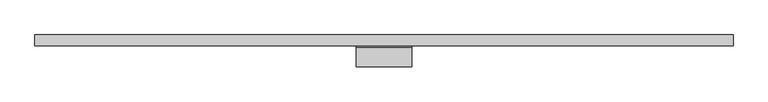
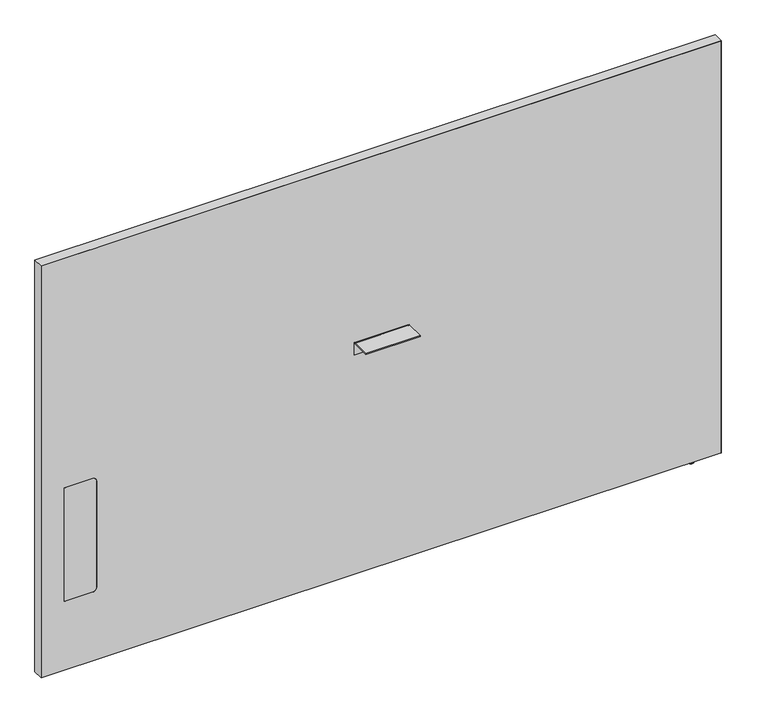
"""IFC4 building model written with IfcOpenShell, lengths in millimetres: furniture geometry, Steelcase - Answer Solution - Boundary Screen - Straight - Single Sided : 48H x 75W."""

from ifc_helpers import new_model, si_unit, point, frame, frame_2d, origin, place, context, project, spatial, polyline, circle_curve, ellipse_curve, trimmed, segment, composite_curve, outline, extrude, source, transform, mapped, element, save
from ifc_brep_helpers import plane_surface, cylinder_surface, revolved_surface, advanced_brep


def furniture_cecc6463(model_context):
    return source(origin(), model_context, "Body", "SolidModel", [
        extrude(outline(composite_curve([segment(polyline([(-86.8398151, 696.4680019), (-86.8398151, 698.5), (-34.9450855, 698.5)]), True, "CONTINUOUS"), segment(trimmed(circle_curve(frame_2d((-34.9450855, 693.2447477)), 5.2552523), [point((-34.9450855, 698.5))], [point((-29.6898332, 693.2447477))], False, "CARTESIAN"), True, "CONTINUOUS"), segment(polyline([(-29.6898332, 693.2447477), (-29.6898332, 660.4), (-31.7218162, 660.4), (-31.7218162, 693.0058743)]), True, "CONTINUOUS"), segment(trimmed(circle_curve(frame_2d((-35.1839438, 693.0058743)), 3.4621276), [point((-31.7218162, 693.0058743))], [point((-35.1839438, 696.4680019))], True, "CARTESIAN"), True, "CONTINUOUS"), segment(polyline([(-35.1839438, 696.4680019), (-86.8398151, 696.4680019)]), True, "CONTINUOUS")], self_intersect=False)), frame((229.8191407, 0.0, 0.0), z_axis=(1.0, 0.0, 0.0), x_axis=(0.0, 1.0, 0.0)), (0.0, 0.0, 1.0), 152.4000969),
        advanced_brep(
        [(1181.3286488, -23.7588726, 9.9059849), (1181.3286488, -5.9309607, 9.9059849), (1181.3286488, -14.8449166, 9.9059849), (1181.3286488, -23.7588726, 2.9673238), (1181.3286488, -5.9309607, 2.9673238), (1181.3286488, -22.7915354, 2.9673238), (1181.3286488, -6.8982978, 2.9673238), (1181.3286488, -22.7915354, 1.6569081), (1181.3286488, -6.8982978, 1.6569081), (1181.3286488, -21.1346274, 0.0), (1181.3286488, -8.5552059, 0.0), (1181.3286488, -14.8449166, 0.0)],
        [
            (0, 1, circle_curve(frame((1181.3286488, -14.8449166, 9.9059849), z_axis=(0.0, 0.0, 1.0), x_axis=(0.0, 1.0, 0.0)), 8.913956)),
            (1, 2),
            (2, 0),
            (1, 0, circle_curve(frame((1181.3286488, -14.8449166, 9.9059849), z_axis=(0.0, 0.0, 1.0), x_axis=(0.0, 1.0, 0.0)), 8.913956)),
            (3, 4, circle_curve(frame((1181.3286488, -14.8449166, 2.9673238), z_axis=(0.0, 0.0, 1.0), x_axis=(0.0, 1.0, 0.0)), 8.913956)),
            (4, 1),
            (0, 3),
            (4, 3, circle_curve(frame((1181.3286488, -14.8449166, 2.9673238), z_axis=(0.0, 0.0, 1.0), x_axis=(0.0, 1.0, 0.0)), 8.913956)),
            (5, 6, circle_curve(frame((1181.3286488, -14.8449166, 2.9673238), z_axis=(0.0, 0.0, 1.0), x_axis=(0.0, 1.0, 0.0)), 7.9466188)),
            (6, 4),
            (3, 5),
            (6, 5, circle_curve(frame((1181.3286488, -14.8449166, 2.9673238), z_axis=(0.0, 0.0, 1.0), x_axis=(0.0, 1.0, 0.0)), 7.9466188)),
            (7, 8, circle_curve(frame((1181.3286488, -14.8449166, 1.6569081), z_axis=(0.0, 0.0, 1.0), x_axis=(0.0, 1.0, 0.0)), 7.9466188)),
            (8, 6),
            (5, 7),
            (8, 7, circle_curve(frame((1181.3286488, -14.8449166, 1.6569081), z_axis=(0.0, 0.0, 1.0), x_axis=(0.0, 1.0, 0.0)), 7.9466188)),
            (9, 10, circle_curve(frame((1181.3286488, -14.8449166, 0.0), z_axis=(0.0, 0.0, 1.0), x_axis=(0.0, 1.0, 0.0)), 6.2897107)),
            (10, 8, circle_curve(frame((1181.3286488, -8.5552059, 1.6569081), z_axis=(1.0, 0.0, 0.0), x_axis=(0.0, 1.0, 0.0)), 1.6569081)),
            (7, 9, circle_curve(frame((1181.3286488, -21.1346274, 1.6569081), z_axis=(1.0, 0.0, 0.0), x_axis=(0.0, -1.0, 0.0)), 1.6569081)),
            (10, 9, circle_curve(frame((1181.3286488, -14.8449166, 0.0), z_axis=(0.0, 0.0, 1.0), x_axis=(0.0, 1.0, 0.0)), 6.2897107)),
            (11, 10),
            (9, 11),
        ],
        [
            plane_surface(frame((1181.3286488, -14.8449166, 9.9059849), z_axis=(0.0, 0.0, 1.0), x_axis=(0.0, 1.0, 0.0))),
            cylinder_surface(frame((1181.3286488, -14.8449166, 9.9059849), z_axis=(0.0, 0.0, -1.0), x_axis=(0.0, 1.0, 0.0)), 8.913956),
            plane_surface(frame((1181.3286488, -14.8449166, 2.9673238), z_axis=(0.0, 0.0, -1.0), x_axis=(0.0, 1.0, 0.0))),
            cylinder_surface(frame((1181.3286488, -14.8449166, 9.9059849), z_axis=(0.0, 0.0, -1.0), x_axis=(0.0, 1.0, 0.0)), 7.9466188),
            revolved_surface(trimmed(ellipse_curve(frame((1181.3286488, -8.5552059, 1.6569081), z_axis=(-1.0, 0.0, 0.0), x_axis=(0.0, 1.0, 0.0)), 1.6569081, 1.6569081), [point((1181.3286488, -6.8982978, 1.6569081))], [point((1181.3286488, -8.5552059, 0.0))], True, "CARTESIAN"), (1181.3286488, -14.8449166, 9.9059849), (0.0, 0.0, -1.0)),
            plane_surface(frame((1181.3286488, -14.8449166, 0.0), z_axis=(0.0, 0.0, -1.0), x_axis=(0.0, 1.0, 0.0))),
        ],
        [
            (0, [[1, 2, 3]]),
            (0, [[4, -3, -2]]),
            (1, [[5, 6, -1, 7]]),
            (1, [[8, -7, -4, -6]]),
            (2, [[9, 10, -5, 11]]),
            (2, [[12, -11, -8, -10]]),
            (3, [[13, 14, -9, 15]]),
            (3, [[16, -15, -12, -14]]),
            (4, [[17, 18, -13, 19]]),
            (4, [[20, -19, -16, -18]]),
            (5, [[21, -17, 22]]),
            (5, [[-22, -20, -21]]),
        ],
    ),
        advanced_brep(
        [(1257.4780168, 0.0, 1229.142118), (1257.4780168, 0.0, 9.9059849), (-645.4902221, 0.0, 9.9059849), (-645.4902221, 0.0, 1229.142118), (1257.4780168, -29.6898332, 1229.142118), (-645.4902221, -29.6898332, 1229.142118), (-645.4902221, -29.6898332, 9.9059849), (1257.4780168, -29.6898332, 9.9059849), (-501.1463873, -29.6898332, 549.6162029), (-490.9863873, -29.6898332, 539.4562029), (-490.9863873, -29.6898332, 223.9362137), (-501.1463873, -29.6898332, 213.7762137), (-580.800285, -29.6898332, 213.7762137), (-580.800285, -29.6898332, 549.6162029), (-580.800285, -29.0550397, 549.6162029), (-501.1463873, -29.0550397, 549.6162029), (-580.800285, -29.0550397, 213.7762137), (-501.1463873, -29.0550397, 213.7762137), (-490.9863873, -29.0550397, 223.9362137), (-490.9863873, -29.0550397, 539.4562029)],
        [
            (0, 1),
            (1, 2),
            (2, 3),
            (3, 0),
            (4, 5),
            (5, 6),
            (6, 7),
            (7, 4),
            (8, 9, circle_curve(frame((-501.1463873, -29.6898332, 539.4562029), z_axis=(0.0, 1.0, 0.0), x_axis=(0.0, 0.0, 1.0)), 10.16)),
            (9, 10),
            (10, 11, circle_curve(frame((-501.1463873, -29.6898332, 223.9362137), z_axis=(0.0, 1.0, 0.0), x_axis=(0.0, 0.0, 1.0)), 10.16)),
            (11, 12),
            (12, 13),
            (13, 8),
            (0, 4),
            (7, 1),
            (6, 2),
            (5, 3),
            (13, 14),
            (14, 15),
            (15, 8),
            (12, 16),
            (16, 14),
            (11, 17),
            (17, 16),
            (10, 18),
            (18, 17, circle_curve(frame((-501.1463873, -29.0550397, 223.9362137), z_axis=(0.0, 1.0, 0.0), x_axis=(0.0, 0.0, 1.0)), 10.16)),
            (9, 19),
            (19, 18),
            (15, 19, circle_curve(frame((-501.1463873, -29.0550397, 539.4562029), z_axis=(0.0, 1.0, 0.0), x_axis=(0.0, 0.0, 1.0)), 10.16)),
        ],
        [
            plane_surface(frame((1257.4780168, 0.0, 1229.142118), z_axis=(0.0, 1.0, 0.0), x_axis=(0.0, 0.0, -1.0))),
            plane_surface(frame((1257.4780168, -29.6898332, 1229.142118), z_axis=(0.0, -1.0, 0.0), x_axis=(0.0, 0.0, 1.0))),
            plane_surface(frame((1257.4780168, 0.0, 1229.142118), z_axis=(1.0, 0.0, 0.0), x_axis=(0.0, -1.0, 0.0))),
            plane_surface(frame((1257.4780168, 0.0, 9.9059849), z_axis=(0.0, 0.0, -1.0), x_axis=(0.0, -1.0, 0.0))),
            plane_surface(frame((-645.4902221, 0.0, 9.9059849), z_axis=(-1.0, 0.0, 0.0), x_axis=(0.0, -1.0, 0.0))),
            plane_surface(frame((-645.4902221, 0.0, 1229.142118), z_axis=(0.0, 0.0, 1.0), x_axis=(0.0, -1.0, 0.0))),
            plane_surface(frame((-501.1463873, 0.0, 549.6162029), z_axis=(0.0, 0.0, -1.0), x_axis=(0.0, -1.0, 0.0))),
            plane_surface(frame((-580.800285, 0.0, 549.6162029), z_axis=(1.0, 0.0, 0.0), x_axis=(0.0, -1.0, 0.0))),
            plane_surface(frame((-580.800285, 0.0, 213.7762137), z_axis=(0.0, 0.0, 1.0), x_axis=(0.0, -1.0, 0.0))),
            revolved_surface(polyline([(-501.1463873, -29.6898332, 234.0962137), (-501.1463873, -29.0550397, 234.0962137)]), (-501.1463873, -29.6898332, 223.9362137), (0.0, -1.0, 0.0)),
            plane_surface(frame((-490.9863873, 0.0, 223.9362137), z_axis=(-1.0, 0.0, 0.0), x_axis=(0.0, -1.0, 0.0))),
            revolved_surface(polyline([(-501.1463873, -29.6898332, 549.6162029), (-501.1463873, -29.0550397, 549.6162029)]), (-501.1463873, -29.6898332, 539.4562029), (0.0, -1.0, 0.0)),
            plane_surface(frame((-490.9863873, -29.0550397, 629.172953), z_axis=(0.0, -1.0, 0.0), x_axis=(0.0, 0.0, 1.0))),
        ],
        [
            (0, [[1, 2, 3, 4]]),
            (1, [[5, 6, 7, 8], [9, 10, 11, 12, 13, 14]]),
            (2, [[-1, 15, -8, 16]]),
            (3, [[-2, -16, -7, 17]]),
            (4, [[-3, -17, -6, 18]]),
            (5, [[-4, -18, -5, -15]]),
            (6, [[-14, 19, 20, 21]]),
            (7, [[-13, 22, 23, -19]]),
            (8, [[-12, 24, 25, -22]]),
            (9, [[-11, 26, 27, -24]]),
            (10, [[-10, 28, 29, -26]]),
            (11, [[-9, -21, 30, -28]]),
            (12, [[-20, -23, -25, -27, -29, -30]]),
        ],
    ),
        extrude(outline(composite_curve([segment(polyline([(549.6162029, -501.1463873), (549.6162029, -580.800285), (213.7762137, -580.800285), (213.7762137, -501.1463873)]), True, "CONTINUOUS"), segment(trimmed(circle_curve(frame_2d((223.9362137, -501.1463873)), 10.16), [point((213.7762137, -501.1463873))], [point((223.9362137, -490.9863873))], False, "CARTESIAN"), True, "CONTINUOUS"), segment(polyline([(223.9362137, -490.9863873), (539.4562029, -490.9863873)]), True, "CONTINUOUS"), segment(trimmed(circle_curve(frame_2d((539.4562029, -501.1463873)), 10.16), [point((539.4562029, -490.9863873))], [point((549.6162029, -501.1463873))], False, "CARTESIAN"), True, "CONTINUOUS")], self_intersect=False)), frame((0.0, -29.6898332, 0.0), z_axis=(0.0, 1.0, 0.0), x_axis=(0.0, 0.0, 1.0)), (0.0, 0.0, 1.0), 0.6347935),
        extrude(outline(polyline([(1230.122, 1258.5191891), (1230.122, -646.4808109), (9.9059849, -646.4808109), (9.9059849, -645.4902221), (1229.142118, -645.4902221), (1229.142118, 1257.4780168), (9.9059849, 1257.4780168), (9.9059849, 1258.5191891), (1230.122, 1258.5191891)])), frame((0.0, -29.6898332, 0.0), z_axis=(0.0, 1.0, 0.0), x_axis=(0.0, 0.0, 1.0)), (0.0, 0.0, 1.0), 29.6898332),
    ])


if __name__ == "__main__":
    model = new_model("IFC4")
    model_context = context("Model", 3, world=origin())
    ifc_project = project(units=[si_unit("LENGTHUNIT", "METRE", prefix="MILLI")], contexts=[model_context])
    site = spatial("IfcSite", under=ifc_project)
    building = spatial("IfcBuilding", under=site)
    placement = place(None, origin())
    furniture_shape = furniture_cecc6463(model_context)
    element("IfcFurniture", 1, ObjectType="Steelcase - Answer Solution - Boundary Screen - Straight - Single Sided : 48H x 75W", at=placement, inside=building, context=model_context, shape_type="MappedRepresentation", body=[
        mapped(furniture_shape, transform((0.0, 0.0, 0.0), x_axis=(1.0, 0.0, 0.0), y_axis=(0.0, 1.0, 0.0), z_axis=(0.0, 0.0, 1.0))),
    ])
    save(model, "model.ifc")
